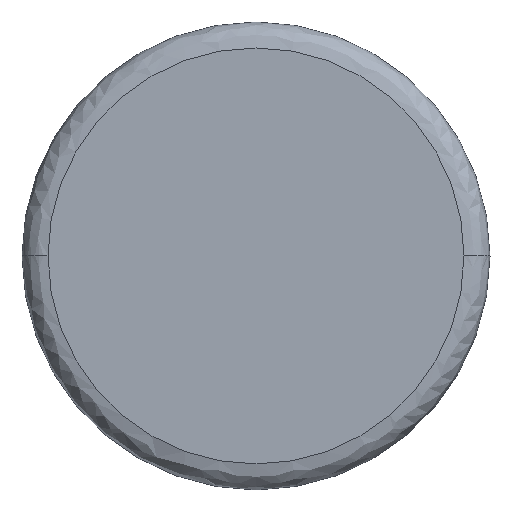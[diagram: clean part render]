
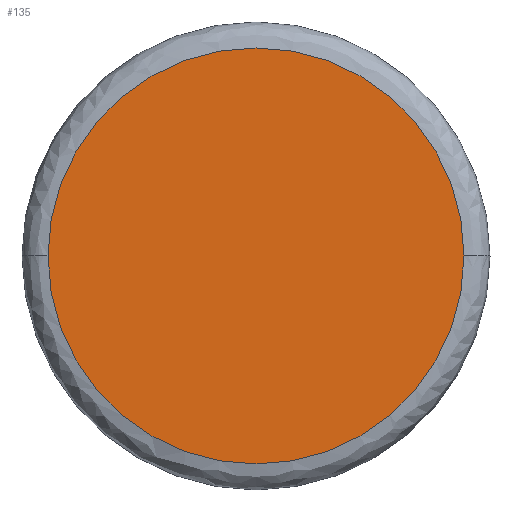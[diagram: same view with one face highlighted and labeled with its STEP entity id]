
A CAD part, top view. The second image highlights one B-rep face of the part: STEP entity #135.
In plain terms, the highlighted planar face has unit normal (0, 0, 1).
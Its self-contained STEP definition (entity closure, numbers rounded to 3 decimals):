
#49 = FACE_OUTER_BOUND ( 'NONE', #82, .T. ) ;
#57 = ORIENTED_EDGE ( 'NONE', *, *, #168, .T. ) ;
#64 = ORIENTED_EDGE ( 'NONE', *, *, #163, .T. ) ;
#82 = EDGE_LOOP ( 'NONE', ( #64, #57 ) ) ;
#96 = CIRCLE ( 'NONE', #393, 40. ) ;
#108 = CIRCLE ( 'NONE', #387, 40. ) ;
#135 = ADVANCED_FACE ( 'NONE', ( #49 ), #242, .T. ) ;
#163 = EDGE_CURVE ( 'NONE', #176, #179, #108, .T. ) ;
#168 = EDGE_CURVE ( 'NONE', #179, #176, #96, .T. ) ;
#176 = VERTEX_POINT ( 'NONE', #362 ) ;
#179 = VERTEX_POINT ( 'NONE', #354 ) ;
#241 = CARTESIAN_POINT ( 'NONE',  ( 20., 0., 60. ) ) ;
#242 = PLANE ( 'NONE',  #408 ) ;
#251 = DIRECTION ( 'NONE',  ( 0., 0., 1. ) ) ;
#252 = DIRECTION ( 'NONE',  ( 1., 0., 0. ) ) ;
#335 = CARTESIAN_POINT ( 'NONE',  ( 0., 0., 60. ) ) ;
#342 = DIRECTION ( 'NONE',  ( 0., 0., 1. ) ) ;
#343 = DIRECTION ( 'NONE',  ( 1., 0., 0. ) ) ;
#351 = CARTESIAN_POINT ( 'NONE',  ( 0., 0., 60. ) ) ;
#354 = CARTESIAN_POINT ( 'NONE',  ( -40., 0., 60. ) ) ;
#359 = DIRECTION ( 'NONE',  ( 0., 0., 1. ) ) ;
#360 = DIRECTION ( 'NONE',  ( 1., 0., 0. ) ) ;
#362 = CARTESIAN_POINT ( 'NONE',  ( 40., 0., 60. ) ) ;
#387 = AXIS2_PLACEMENT_3D ( 'NONE', #335, #342, #343 ) ;
#393 = AXIS2_PLACEMENT_3D ( 'NONE', #351, #359, #360 ) ;
#408 = AXIS2_PLACEMENT_3D ( 'NONE', #241, #251, #252 ) ;
